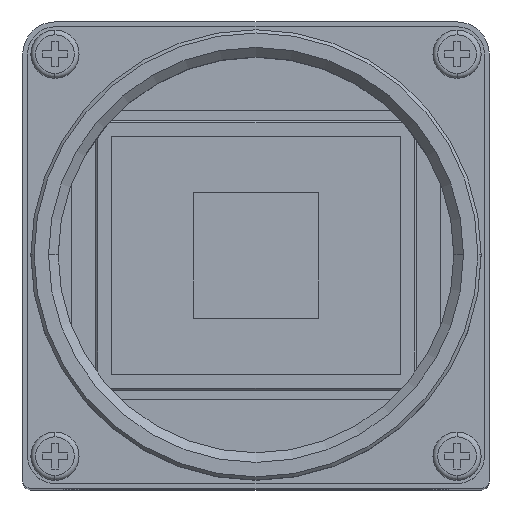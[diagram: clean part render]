
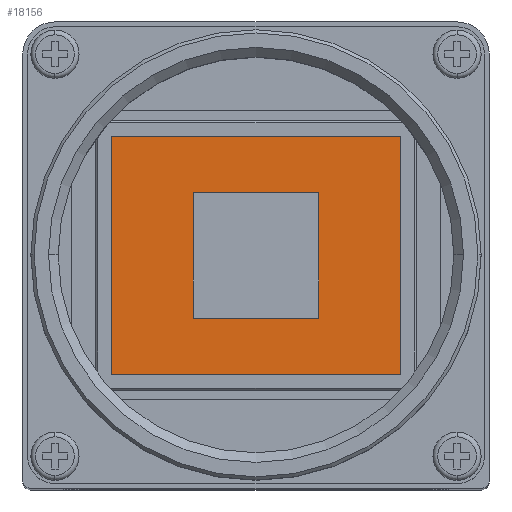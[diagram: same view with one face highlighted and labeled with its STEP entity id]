
A CAD part, top view. The second image highlights one B-rep face of the part: STEP entity #18156.
In plain terms, the highlighted planar face has unit normal (0, 0, 1).
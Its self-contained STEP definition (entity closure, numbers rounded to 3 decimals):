
#5055=DIRECTION('',(0.,-1.,0.));
#5056=VECTOR('',#5055,14.8);
#5057=CARTESIAN_POINT('',(-9.,7.4,49.92));
#5058=LINE('',#5057,#5056);
#5059=DIRECTION('',(-1.,0.,0.));
#5060=VECTOR('',#5059,18.);
#5061=CARTESIAN_POINT('',(9.,7.4,49.92));
#5062=LINE('',#5061,#5060);
#5063=DIRECTION('',(0.,1.,0.));
#5064=VECTOR('',#5063,14.8);
#5065=CARTESIAN_POINT('',(9.,-7.4,49.92));
#5066=LINE('',#5065,#5064);
#5067=DIRECTION('',(1.,0.,0.));
#5068=VECTOR('',#5067,18.);
#5069=CARTESIAN_POINT('',(-9.,-7.4,49.92));
#5070=LINE('',#5069,#5068);
#5071=DIRECTION('',(1.,0.,0.));
#5072=VECTOR('',#5071,7.825);
#5073=CARTESIAN_POINT('',(-3.913,3.902,49.92));
#5074=LINE('',#5073,#5072);
#5087=DIRECTION('',(0.,-1.,0.));
#5088=VECTOR('',#5087,7.804);
#5089=CARTESIAN_POINT('',(3.913,3.902,49.92));
#5090=LINE('',#5089,#5088);
#5099=DIRECTION('',(-1.,0.,0.));
#5100=VECTOR('',#5099,7.825);
#5101=CARTESIAN_POINT('',(3.913,-3.902,49.92));
#5102=LINE('',#5101,#5100);
#5111=DIRECTION('',(0.,1.,0.));
#5112=VECTOR('',#5111,7.804);
#5113=CARTESIAN_POINT('',(-3.913,-3.902,49.92));
#5114=LINE('',#5113,#5112);
#6399=CARTESIAN_POINT('',(3.913,3.902,49.92));
#6400=VERTEX_POINT('',#6399);
#6401=CARTESIAN_POINT('',(-3.913,3.902,49.92));
#6402=VERTEX_POINT('',#6401);
#6407=CARTESIAN_POINT('',(3.913,-3.902,49.92));
#6408=VERTEX_POINT('',#6407);
#6409=CARTESIAN_POINT('',(-3.913,-3.902,49.92));
#6410=VERTEX_POINT('',#6409);
#6451=CARTESIAN_POINT('',(-9.,-7.4,49.92));
#6452=VERTEX_POINT('',#6451);
#6453=CARTESIAN_POINT('',(-9.,7.4,49.92));
#6454=VERTEX_POINT('',#6453);
#6455=CARTESIAN_POINT('',(9.,7.4,49.92));
#6456=VERTEX_POINT('',#6455);
#6457=CARTESIAN_POINT('',(9.,-7.4,49.92));
#6458=VERTEX_POINT('',#6457);
#18135=CARTESIAN_POINT('',(0.,0.,49.92));
#18136=DIRECTION('',(0.,0.,1.));
#18137=DIRECTION('',(1.,0.,0.));
#18138=AXIS2_PLACEMENT_3D('',#18135,#18136,#18137);
#18139=PLANE('',#18138);
#18140=ORIENTED_EDGE('',*,*,#18059,.F.);
#18141=ORIENTED_EDGE('',*,*,#18081,.F.);
#18142=ORIENTED_EDGE('',*,*,#18102,.F.);
#18143=ORIENTED_EDGE('',*,*,#18122,.F.);
#18144=EDGE_LOOP('',(#18140,#18141,#18142,#18143));
#18145=FACE_OUTER_BOUND('',#18144,.F.);
#18147=ORIENTED_EDGE('',*,*,#18146,.F.);
#18149=ORIENTED_EDGE('',*,*,#18148,.F.);
#18151=ORIENTED_EDGE('',*,*,#18150,.F.);
#18153=ORIENTED_EDGE('',*,*,#18152,.F.);
#18154=EDGE_LOOP('',(#18147,#18149,#18151,#18153));
#18155=FACE_BOUND('',#18154,.F.);
#18059=EDGE_CURVE('',#6454,#6452,#5058,.T.);
#18081=EDGE_CURVE('',#6456,#6454,#5062,.T.);
#18102=EDGE_CURVE('',#6458,#6456,#5066,.T.);
#18122=EDGE_CURVE('',#6452,#6458,#5070,.T.);
#18146=EDGE_CURVE('',#6402,#6400,#5074,.T.);
#18148=EDGE_CURVE('',#6410,#6402,#5114,.T.);
#18150=EDGE_CURVE('',#6408,#6410,#5102,.T.);
#18152=EDGE_CURVE('',#6400,#6408,#5090,.T.);
#18156=ADVANCED_FACE('',(#18145,#18155),#18139,.T.);
